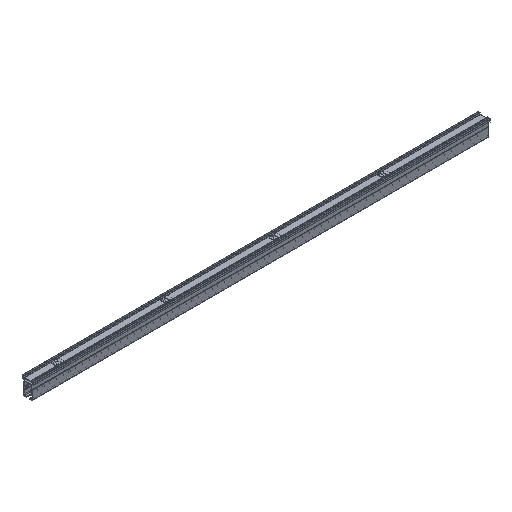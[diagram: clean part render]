
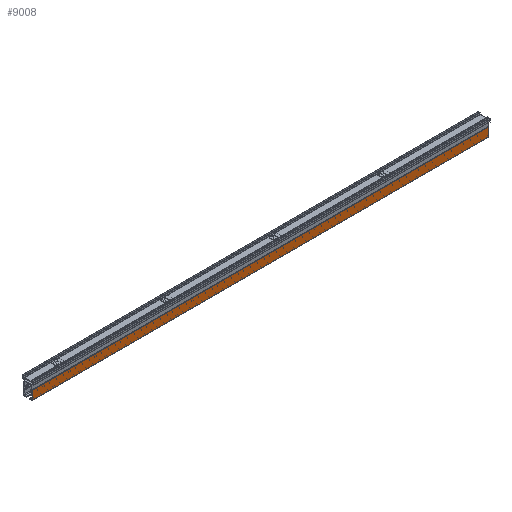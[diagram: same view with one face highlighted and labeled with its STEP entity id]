
A CAD part, isometric view. The second image highlights one B-rep face of the part: STEP entity #9008.
In plain terms, the highlighted planar face has unit normal (0, -1, 0).
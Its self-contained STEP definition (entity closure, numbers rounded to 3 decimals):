
#9008=ADVANCED_FACE('',(#15366),#15367,.T.);
#15366=FACE_OUTER_BOUND('',#24766,.T.);
#15367=PLANE('',#24767);
#24766=EDGE_LOOP('',(#29027,#29028,#29029,#29030));
#24767=AXIS2_PLACEMENT_3D('',#29031,#29032,#29033);
#29027=ORIENTED_EDGE('',*,*,#36776,.T.);
#29028=ORIENTED_EDGE('',*,*,#36777,.T.);
#29029=ORIENTED_EDGE('',*,*,#36778,.F.);
#29030=ORIENTED_EDGE('',*,*,#36779,.F.);
#29031=CARTESIAN_POINT('',(2500.0,7.5,2.0));
#29032=DIRECTION('',(0.,-1.0,0.0));
#29033=DIRECTION('',(0.0,0.0,1.0));
#36776=EDGE_CURVE('',#41516,#41517,#41518,.T.);
#36777=EDGE_CURVE('',#41517,#41519,#41520,.T.);
#36778=EDGE_CURVE('',#41521,#41519,#41522,.T.);
#36779=EDGE_CURVE('',#41516,#41521,#41523,.T.);
#41516=VERTEX_POINT('',#43289);
#41517=VERTEX_POINT('',#43290);
#41518=LINE('',#43291,#43292);
#41519=VERTEX_POINT('',#43293);
#41520=LINE('',#43294,#43295);
#41521=VERTEX_POINT('',#43296);
#41522=LINE('',#43297,#43298);
#41523=LINE('',#43299,#43300);
#43289=CARTESIAN_POINT('',(2100.0,7.5,2.0));
#43290=CARTESIAN_POINT('',(2100.0,7.5,42.0));
#43291=CARTESIAN_POINT('',(2100.0,7.5,2.0));
#43292=VECTOR('',#45096,1.0);
#43293=CARTESIAN_POINT('',(0.0,7.5,42.0));
#43294=CARTESIAN_POINT('',(2500.0,7.5,42.0));
#43295=VECTOR('',#45097,1.0);
#43296=CARTESIAN_POINT('',(0.0,7.5,2.0));
#43297=CARTESIAN_POINT('',(0.0,7.5,2.0));
#43298=VECTOR('',#45098,1.0);
#43299=CARTESIAN_POINT('',(2500.0,7.5,2.0));
#43300=VECTOR('',#45099,1.0);
#45096=DIRECTION('',(0.0,0.0,1.0));
#45097=DIRECTION('',(-1.0,0.,0.0));
#45098=DIRECTION('',(0.0,0.0,1.0));
#45099=DIRECTION('',(-1.0,0.,0.0));
